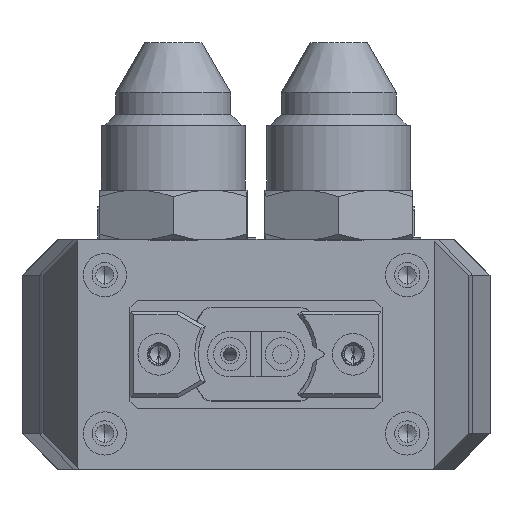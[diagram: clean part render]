
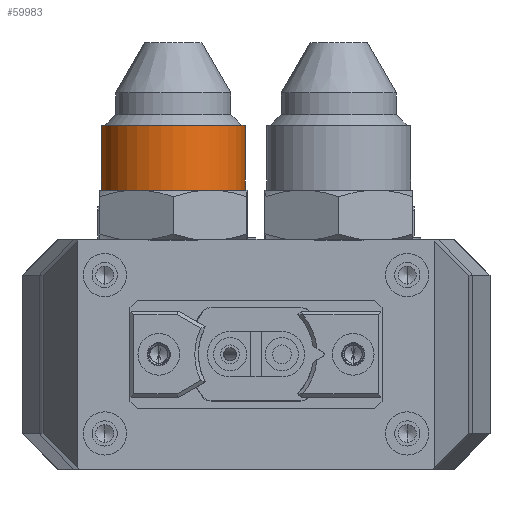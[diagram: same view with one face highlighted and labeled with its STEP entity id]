
A CAD part, front view. The second image highlights one B-rep face of the part: STEP entity #59983.
In plain terms, the highlighted cylindrical face has radius 10 mm (diameter 20 mm), a partial arc.
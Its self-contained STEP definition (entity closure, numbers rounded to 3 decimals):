
#3100 = VERTEX_POINT ( 'NONE', #26963 ) ;
#5316 = DIRECTION ( 'NONE',  ( 0., 0., 1. ) ) ;
#8966 = DIRECTION ( 'NONE',  ( 1., 0., 0. ) ) ;
#10892 = LINE ( 'NONE', #42535, #67047 ) ;
#12652 = AXIS2_PLACEMENT_3D ( 'NONE', #13233, #61222, #66800 ) ;
#13233 = CARTESIAN_POINT ( 'NONE',  ( -58.019, -126.235, 1021.303 ) ) ;
#13392 = CARTESIAN_POINT ( 'NONE',  ( -68.019, -126.235, 1030.303 ) ) ;
#13791 = AXIS2_PLACEMENT_3D ( 'NONE', #46854, #20412, #8966 ) ;
#14294 = FACE_OUTER_BOUND ( 'NONE', #58027, .T. ) ;
#18899 = CARTESIAN_POINT ( 'NONE',  ( -68.019, -126.235, 1021.303 ) ) ;
#19535 = VERTEX_POINT ( 'NONE', #67305 ) ;
#19913 = CARTESIAN_POINT ( 'NONE',  ( -68.019, -126.235, 1052.575 ) ) ;
#20412 = DIRECTION ( 'NONE',  ( 0., 0., -1. ) ) ;
#22668 = CIRCLE ( 'NONE', #13791, 10. ) ;
#23298 = ORIENTED_EDGE ( 'NONE', *, *, #39747, .T. ) ;
#25456 = EDGE_CURVE ( 'NONE', #3100, #19535, #10892, .T. ) ;
#26963 = CARTESIAN_POINT ( 'NONE',  ( -48.019, -126.235, 1021.303 ) ) ;
#27475 = VERTEX_POINT ( 'NONE', #18899 ) ;
#35825 = DIRECTION ( 'NONE',  ( 0., 0., 1. ) ) ;
#36179 = DIRECTION ( 'NONE',  ( 1., 0., 0. ) ) ;
#39747 = EDGE_CURVE ( 'NONE', #27475, #3100, #67093, .T. ) ;
#40535 = EDGE_CURVE ( 'NONE', #19535, #58101, #22668, .T. ) ;
#42535 = CARTESIAN_POINT ( 'NONE',  ( -48.019, -126.235, 1052.575 ) ) ;
#43967 = AXIS2_PLACEMENT_3D ( 'NONE', #50824, #35825, #36179 ) ;
#46854 = CARTESIAN_POINT ( 'NONE',  ( -58.019, -126.235, 1030.303 ) ) ;
#47627 = EDGE_CURVE ( 'NONE', #27475, #58101, #62694, .T. ) ;
#48540 = ORIENTED_EDGE ( 'NONE', *, *, #47627, .F. ) ;
#48633 = VECTOR ( 'NONE', #57482, 1000. ) ;
#50824 = CARTESIAN_POINT ( 'NONE',  ( -58.019, -126.235, 1052.575 ) ) ;
#50866 = ORIENTED_EDGE ( 'NONE', *, *, #25456, .T. ) ;
#57482 = DIRECTION ( 'NONE',  ( 0., 0., 1. ) ) ;
#58027 = EDGE_LOOP ( 'NONE', ( #48540, #23298, #50866, #62740 ) ) ;
#58101 = VERTEX_POINT ( 'NONE', #13392 ) ;
#59983 = ADVANCED_FACE ( 'NONE', ( #14294 ), #68178, .T. ) ;
#61222 = DIRECTION ( 'NONE',  ( 0., 0., 1. ) ) ;
#62694 = LINE ( 'NONE', #19913, #48633 ) ;
#62740 = ORIENTED_EDGE ( 'NONE', *, *, #40535, .T. ) ;
#66800 = DIRECTION ( 'NONE',  ( 1., 0., 0. ) ) ;
#67047 = VECTOR ( 'NONE', #5316, 1000. ) ;
#67093 = CIRCLE ( 'NONE', #12652, 10. ) ;
#67305 = CARTESIAN_POINT ( 'NONE',  ( -48.019, -126.235, 1030.303 ) ) ;
#68178 = CYLINDRICAL_SURFACE ( 'NONE', #43967, 10. ) ;
